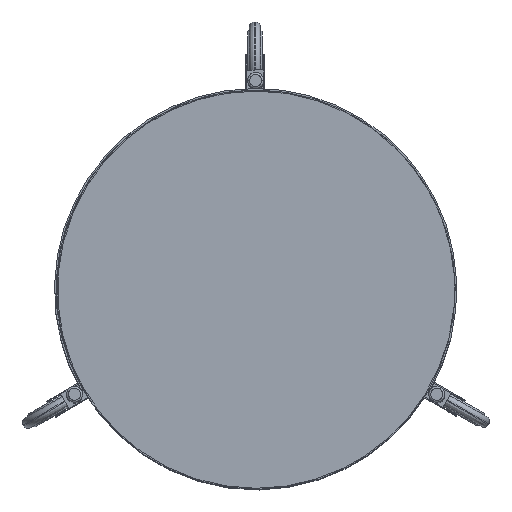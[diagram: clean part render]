
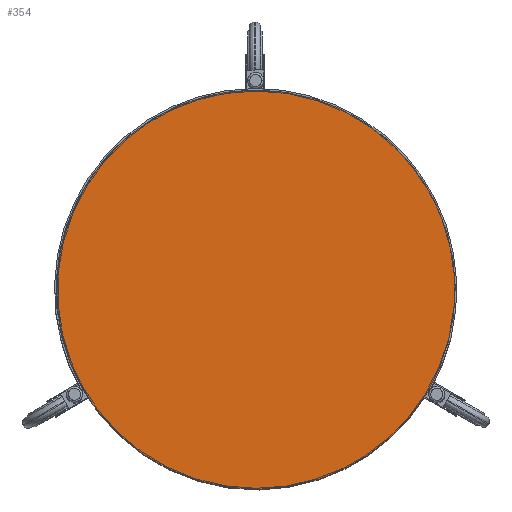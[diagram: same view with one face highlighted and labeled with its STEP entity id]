
A CAD part, top view. The second image highlights one B-rep face of the part: STEP entity #354.
In plain terms, the highlighted planar face has unit normal (0, 0, 1).
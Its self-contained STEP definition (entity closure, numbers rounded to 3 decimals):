
#354=ADVANCED_FACE('',(#631),#3734,.T.);
#631=FACE_OUTER_BOUND('',#911,.T.);
#911=EDGE_LOOP('',(#2001,#2002));
#2001=ORIENTED_EDGE('',*,*,#2608,.F.);
#2002=ORIENTED_EDGE('',*,*,#2601,.F.);
#2601=EDGE_CURVE('',#3499,#3503,#3137,.T.);
#2608=EDGE_CURVE('',#3503,#3499,#3144,.T.);
#3137=(
BOUNDED_CURVE()
B_SPLINE_CURVE(2,(#7407,#7408,#7409,#7410,#7411),.UNSPECIFIED.,.F.,.F.)
B_SPLINE_CURVE_WITH_KNOTS((3,2,3),(-1247.212,-935.409,
-623.606),.UNSPECIFIED.)
CURVE()
GEOMETRIC_REPRESENTATION_ITEM()
RATIONAL_B_SPLINE_CURVE((1.,0.707,1.,0.707,1.))
REPRESENTATION_ITEM('')
);
#3144=(
BOUNDED_CURVE()
B_SPLINE_CURVE(2,(#7434,#7435,#7436,#7437,#7438),.UNSPECIFIED.,.F.,.F.)
B_SPLINE_CURVE_WITH_KNOTS((3,2,3),(-623.606,-311.803,
0.),.UNSPECIFIED.)
CURVE()
GEOMETRIC_REPRESENTATION_ITEM()
RATIONAL_B_SPLINE_CURVE((1.,0.707,1.,0.707,1.))
REPRESENTATION_ITEM('')
);
#3499=VERTEX_POINT('',#7399);
#3503=VERTEX_POINT('',#7403);
#3734=PLANE('',#4097);
#4097=AXIS2_PLACEMENT_3D('',#7395,#4323,$);
#4323=DIRECTION('',(0.,0.,1.));
#7395=CARTESIAN_POINT('',(248.652,-248.124,540.05));
#7399=CARTESIAN_POINT('',(-172.299,-97.637,540.05));
#7403=CARTESIAN_POINT('',(173.354,97.639,540.05));
#7407=CARTESIAN_POINT('',(-172.299,-97.637,540.05));
#7408=CARTESIAN_POINT('',(-269.937,75.19,540.05));
#7409=CARTESIAN_POINT('',(-97.11,172.828,540.05));
#7410=CARTESIAN_POINT('',(75.716,270.465,540.05));
#7411=CARTESIAN_POINT('',(173.354,97.639,540.05));
#7434=CARTESIAN_POINT('',(173.354,97.639,540.05));
#7435=CARTESIAN_POINT('',(270.992,-75.188,540.05));
#7436=CARTESIAN_POINT('',(98.165,-172.826,540.05));
#7437=CARTESIAN_POINT('',(-74.662,-270.464,540.05));
#7438=CARTESIAN_POINT('',(-172.299,-97.637,540.05));
